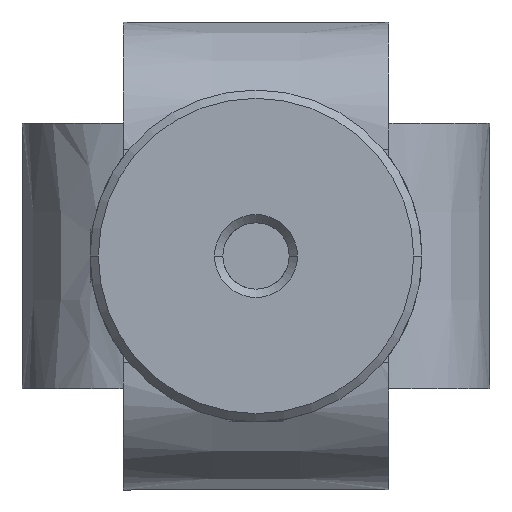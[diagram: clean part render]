
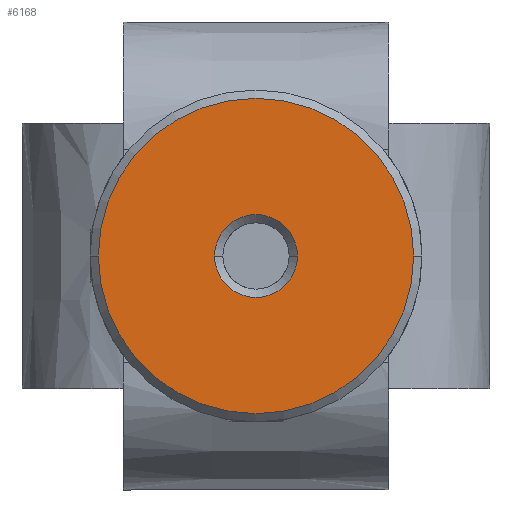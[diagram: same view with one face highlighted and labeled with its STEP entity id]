
A CAD part, front view. The second image highlights one B-rep face of the part: STEP entity #6168.
In plain terms, the highlighted planar face has unit normal (0, -1, 0).
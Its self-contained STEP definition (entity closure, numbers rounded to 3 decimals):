
#553 = PLANE ( 'NONE',  #1793 ) ;
#634 = CIRCLE ( 'NONE', #846, 2.5 ) ;
#670 = CARTESIAN_POINT ( 'NONE',  ( -2.5, -35.24, 0. ) ) ;
#846 = AXIS2_PLACEMENT_3D ( 'NONE', #6798, #5705, #1398 ) ;
#988 = CARTESIAN_POINT ( 'NONE',  ( -9.5, -35.24, 0. ) ) ;
#1188 = DIRECTION ( 'NONE',  ( -1., 0., 0. ) ) ;
#1260 = VERTEX_POINT ( 'NONE', #6941 ) ;
#1355 = EDGE_CURVE ( 'NONE', #2288, #3924, #1716, .T. ) ;
#1373 = ORIENTED_EDGE ( 'NONE', *, *, #3624, .T. ) ;
#1398 = DIRECTION ( 'NONE',  ( -1., 0., 0. ) ) ;
#1716 = CIRCLE ( 'NONE', #5951, 9.5 ) ;
#1793 = AXIS2_PLACEMENT_3D ( 'NONE', #3023, #2921, #1188 ) ;
#2081 = CARTESIAN_POINT ( 'NONE',  ( 9.5, -35.24, 0. ) ) ;
#2237 = EDGE_LOOP ( 'NONE', ( #4676, #1373 ) ) ;
#2288 = VERTEX_POINT ( 'NONE', #2081 ) ;
#2324 = FACE_OUTER_BOUND ( 'NONE', #5961, .T. ) ;
#2921 = DIRECTION ( 'NONE',  ( 0., -1., 0. ) ) ;
#3023 = CARTESIAN_POINT ( 'NONE',  ( 0., -35.24, 0. ) ) ;
#3384 = CARTESIAN_POINT ( 'NONE',  ( 0., -35.24, 0. ) ) ;
#3624 = EDGE_CURVE ( 'NONE', #1260, #7308, #634, .T. ) ;
#3919 = CARTESIAN_POINT ( 'NONE',  ( 0., -35.24, 0. ) ) ;
#3924 = VERTEX_POINT ( 'NONE', #988 ) ;
#3981 = DIRECTION ( 'NONE',  ( 0., -1., 0. ) ) ;
#4008 = DIRECTION ( 'NONE',  ( -1., 0., 0. ) ) ;
#4233 = DIRECTION ( 'NONE',  ( 0., 1., 0. ) ) ;
#4537 = DIRECTION ( 'NONE',  ( 0., -1., 0. ) ) ;
#4591 = FACE_BOUND ( 'NONE', #2237, .T. ) ;
#4611 = EDGE_CURVE ( 'NONE', #3924, #2288, #5262, .T. ) ;
#4676 = ORIENTED_EDGE ( 'NONE', *, *, #7298, .T. ) ;
#4778 = CIRCLE ( 'NONE', #6953, 2.5 ) ;
#5065 = AXIS2_PLACEMENT_3D ( 'NONE', #3919, #4537, #7494 ) ;
#5262 = CIRCLE ( 'NONE', #5065, 9.5 ) ;
#5363 = ORIENTED_EDGE ( 'NONE', *, *, #4611, .T. ) ;
#5705 = DIRECTION ( 'NONE',  ( 0., 1., 0. ) ) ;
#5951 = AXIS2_PLACEMENT_3D ( 'NONE', #3384, #3981, #4008 ) ;
#5961 = EDGE_LOOP ( 'NONE', ( #6984, #5363 ) ) ;
#6168 = ADVANCED_FACE ( 'NONE', ( #4591, #2324 ), #553, .T. ) ;
#6798 = CARTESIAN_POINT ( 'NONE',  ( 0., -35.24, 0. ) ) ;
#6941 = CARTESIAN_POINT ( 'NONE',  ( 2.5, -35.24, 0. ) ) ;
#6953 = AXIS2_PLACEMENT_3D ( 'NONE', #7758, #4233, #7221 ) ;
#6984 = ORIENTED_EDGE ( 'NONE', *, *, #1355, .T. ) ;
#7221 = DIRECTION ( 'NONE',  ( -1., 0., 0. ) ) ;
#7298 = EDGE_CURVE ( 'NONE', #7308, #1260, #4778, .T. ) ;
#7308 = VERTEX_POINT ( 'NONE', #670 ) ;
#7494 = DIRECTION ( 'NONE',  ( -1., 0., 0. ) ) ;
#7758 = CARTESIAN_POINT ( 'NONE',  ( 0., -35.24, 0. ) ) ;
